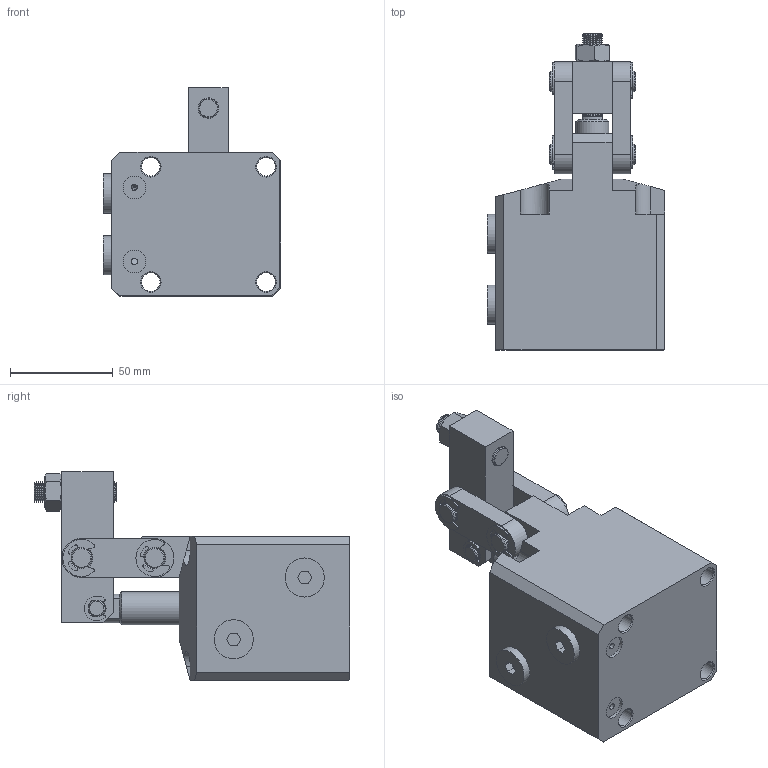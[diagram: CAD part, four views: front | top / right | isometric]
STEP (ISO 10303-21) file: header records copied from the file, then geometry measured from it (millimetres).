
FILE_DESCRIPTION(/* description */ ('STEP AP214'),/* implementation_level */ '2;1');
FILE_NAME(/* name */ 'D:\Vault_2016\Projekty\Clamptek\Hydraulic\CBLU\CBLU-45\STEP\CBLU-45GR.stp',/* time_stamp */ '2021-05-06T12:40:47+02:00',/* author */ ('user'),/* organization */ (''),/* preprocessor_version */ 'ST-DEVELOPER v18.1',/* originating_system */ 'Autodesk Inventor 2021',/* authorisation */ '');
FILE_SCHEMA (('AUTOMOTIVE_DESIGN { 1 0 10303 214 3 1 1 }'));
Length unit declared in the file: millimetre
Products named in the file (13): CBLU-45GR; 45CR±¾Ìå_1; Áã¼þ3_2_1; Á¬¸Ë; 45Ñ¹°å; ¶ÌÏúÖá; ³¤ÏúÖá; Ð¡µ¯; ´ó¿Û; ÂÝÄ¸; ÂÝË¨M10; ÄÚÁù½Ç¶ÂÍ·×
îÐÂ1-4; ÄÚÁù½Ç¶ÂÍ·×
îÐÂ1-4-1
Assembly tree (18 placements, depth 2):
  CBLU-45GR
    45CR±¾Ìå_1
    Áã¼þ3_2_1
    Á¬¸Ë  x2
    45Ñ¹°å
    ¶ÌÏúÖá
    ³¤ÏúÖá  x2
    Ð¡µ¯  x2
    ´ó¿Û  x4
    ÂÝÄ¸
    ÂÝË¨M10
    ÄÚÁù½Ç¶ÂÍ·×
îÐÂ1-4
    ÄÚÁù½Ç¶ÂÍ·×
îÐÂ1-4-1
Bounding box: 86 x 153.5 x 101.5 mm (x, y, z)
Volume: 453904.6 mm3; surface area: 90248.4 mm2
Topology: 18 solids, 18 shells, 466 faces, 1168 edges, 760 vertices
Faces by surface type: cylinder 170, plane 166, cone 128, bspline 2
Full cylindrical faces by diameter (mm): 3 x3, 6.9 x1, 7 x1, 8 x6, 8.376 x1, 8.5 x1, 8.9 x2, 9 x6, 10 x52, 11 x4, 13 x2, 16 x2, 19 x2, 45 x2
Entity records: 11723 total; most frequent: DIRECTION 2084, CARTESIAN_POINT 2074, ORIENTED_EDGE 1808, EDGE_CURVE 904, AXIS2_PLACEMENT_3D 817, VERTEX_POINT 585, LINE 450, VECTOR 450
